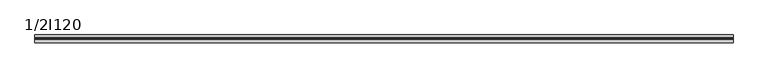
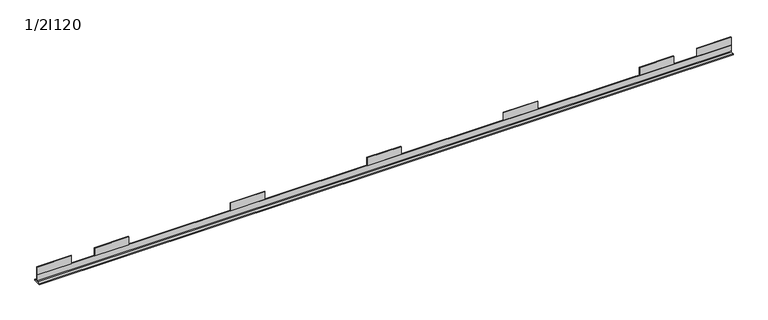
"""IFC4 building model written with IfcOpenShell, lengths in millimetres: beam geometry, Wzmocnienie do belek - dokładny podział : 1/2I120."""

from ifc_helpers import new_model, si_unit, point, frame, frame_2d, origin, place, context, project, spatial, polyline, circle_curve, trimmed, segment, composite_curve, outline, extrude, source, transform, mapped, element, save


def beam_1_2i120_fef7989f(model_context):
    return source(origin(), model_context, "Body", "SweptSolid", [
        extrude(outline(polyline([(3420.0, -2.55), (3420.0, 2.55), (3670.0, 2.55), (3670.0, -2.55), (3420.0, -2.55)])), frame((0.0, 0.0, -60.0), z_axis=(0.0, 0.0, 1.0), x_axis=(1.0, 0.0, 0.0)), (0.0, 0.0, 1.0), 60.0),
        extrude(outline(polyline([(2420.0, -2.55), (2420.0, 2.55), (2670.0, 2.55), (2670.0, -2.55), (2420.0, -2.55)])), frame((0.0, 0.0, -60.0), z_axis=(0.0, 0.0, 1.0), x_axis=(1.0, 0.0, 0.0)), (0.0, 0.0, 1.0), 60.0),
        extrude(outline(polyline([(1420.0, -2.55), (1420.0, 2.55), (1670.0, 2.55), (1670.0, -2.55), (1420.0, -2.55)])), frame((0.0, 0.0, -60.0), z_axis=(0.0, 0.0, 1.0), x_axis=(1.0, 0.0, 0.0)), (0.0, 0.0, 1.0), 60.0),
        extrude(outline(polyline([(4420.0, -2.55), (4420.0, 2.55), (4670.0, 2.55), (4670.0, -2.55), (4420.0, -2.55)])), frame((0.0, 0.0, -60.0), z_axis=(0.0, 0.0, 1.0), x_axis=(1.0, 0.0, 0.0)), (0.0, 0.0, 1.0), 60.0),
        extrude(outline(polyline([(420.0, -2.55), (420.0, 2.55), (670.0, 2.55), (670.0, -2.55), (420.0, -2.55)])), frame((0.0, 0.0, -60.0), z_axis=(0.0, 0.0, 1.0), x_axis=(1.0, 0.0, 0.0)), (0.0, 0.0, 1.0), 60.0),
        extrude(outline(polyline([(4840.0, -2.55), (4840.0, 2.55), (5090.0, 2.55), (5090.0, -2.55), (4840.0, -2.55)])), frame((0.0, 0.0, -60.0), z_axis=(0.0, 0.0, 1.0), x_axis=(1.0, 0.0, 0.0)), (0.0, 0.0, 1.0), 60.0),
        extrude(outline(polyline([(0.0, -2.55), (0.0, 2.55), (250.0, 2.55), (250.0, -2.55), (0.0, -2.55)])), frame((0.0, 0.0, -60.0), z_axis=(0.0, 0.0, 1.0), x_axis=(1.0, 0.0, 0.0)), (0.0, 0.0, 1.0), 60.0),
        extrude(outline(composite_curve([segment(polyline([(29.0, -120.0), (-29.0, -120.0), (-29.0, -112.3), (-7.65, -112.3)]), True, "CONTINUOUS"), segment(trimmed(circle_curve(frame_2d((-7.65, -107.2)), 5.1), [point((-7.65, -112.3))], [point((-2.55, -107.2))], True, "CARTESIAN"), True, "CONTINUOUS"), segment(polyline([(-2.55, -107.2), (-2.55, -60.0), (2.55, -60.0), (2.55, -107.2)]), True, "CONTINUOUS"), segment(trimmed(circle_curve(frame_2d((7.65, -107.2)), 5.1), [point((2.55, -107.2))], [point((7.65, -112.3))], True, "CARTESIAN"), True, "CONTINUOUS"), segment(polyline([(7.65, -112.3), (29.0, -112.3), (29.0, -120.0)]), True, "CONTINUOUS")], self_intersect=False)), frame((0.0, 0.0, 0.0), z_axis=(1.0, 0.0, 0.0), x_axis=(0.0, 1.0, 0.0)), (0.0, 0.0, 1.0), 5090.0),
    ])


if __name__ == "__main__":
    model = new_model("IFC4")
    model_context = context("Model", 3, world=origin())
    ifc_project = project(units=[si_unit("LENGTHUNIT", "METRE", prefix="MILLI")], contexts=[model_context])
    site = spatial("IfcSite", under=ifc_project)
    building = spatial("IfcBuilding", under=site)
    placement = place(None, origin())
    beam_1_2i120_shape = beam_1_2i120_fef7989f(model_context)
    element("IfcBeam", 1, ObjectType="Wzmocnienie do belek - dokładny podział : 1/2I120", at=placement, inside=building, context=model_context, shape_type="MappedRepresentation", body=[
        mapped(beam_1_2i120_shape, transform((0.0, 0.0, 0.0), x_axis=(1.0, 0.0, 0.0), y_axis=(0.0, 1.0, 0.0), z_axis=(0.0, 0.0, 1.0))),
    ])
    save(model, "model.ifc")
